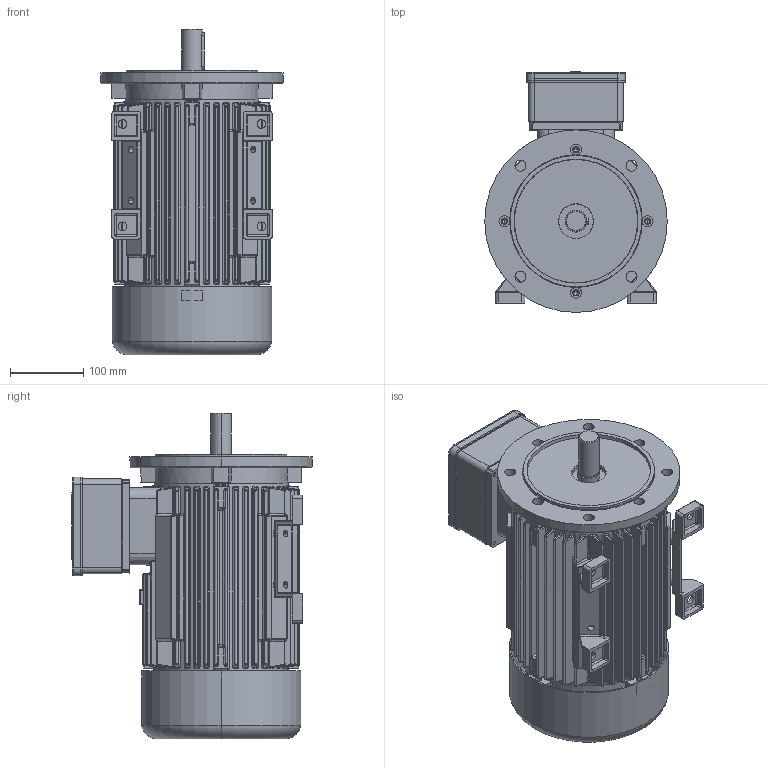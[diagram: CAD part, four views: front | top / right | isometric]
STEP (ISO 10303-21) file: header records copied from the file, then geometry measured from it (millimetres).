
FILE_DESCRIPTION (( 'STEP AP203' ), '1' );
FILE_NAME ('7AT 112 Exde config.STEP', '2018-06-07T11:32:51', ( '' ), ( '' ), 'SwSTEP 2.0', 'SolidWorks 2017', '' );
FILE_SCHEMA (( 'CONFIG_CONTROL_DESIGN' ));
Length unit declared in the file: millimetre
Products named in the file (1): 7AT 112 Exde config
Bounding box: 249.9 x 329.75 x 446 mm (x, y, z)
Volume: 5276108.3 mm3; surface area: 1373534.8 mm2
Topology: 12 solids, 12 shells, 3388 faces, 8315 edges, 4857 vertices
Faces by surface type: cylinder 1213, bspline 965, plane 825, sphere 146, torus 133, cone 106
Entity records: 132159 total; most frequent: CARTESIAN_POINT 60898, ORIENTED_EDGE 16126, DIRECTION 13500, EDGE_CURVE 8063, AXIS2_PLACEMENT_3D 5202, VERTEX_POINT 4847, EDGE_LOOP 3630, FACE_OUTER_BOUND 3388
